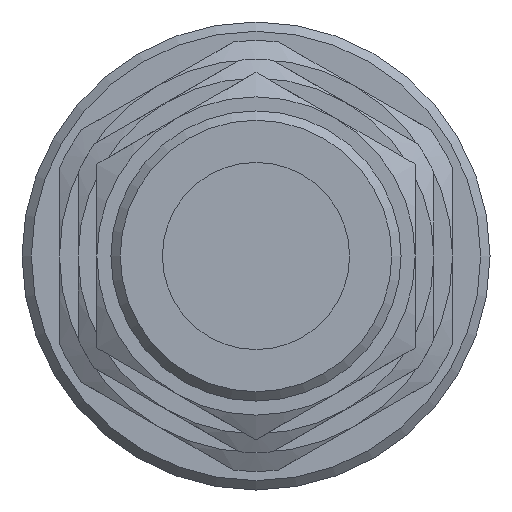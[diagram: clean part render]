
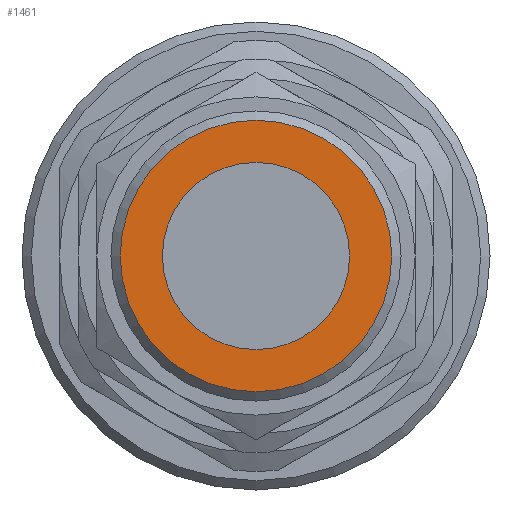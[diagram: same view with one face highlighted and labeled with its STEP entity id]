
A CAD part, left-side view. The second image highlights one B-rep face of the part: STEP entity #1461.
In plain terms, the highlighted planar face has unit normal (-1, 0, 0).
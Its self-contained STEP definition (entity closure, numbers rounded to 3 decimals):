
#236=PLANE($,#1572);
#270=FACE_BOUND($,#406,.T.);
#271=FACE_BOUND($,#407,.T.);
#406=EDGE_LOOP($,(#997));
#407=EDGE_LOOP($,(#998));
#531=CIRCLE($,#1564,5.);
#533=CIRCLE($,#1568,7.25);
#624=VERTEX_POINT($,#2209);
#626=VERTEX_POINT($,#2215);
#771=EDGE_CURVE($,#624,#624,#531,.T.);
#773=EDGE_CURVE($,#626,#626,#533,.T.);
#997=ORIENTED_EDGE($,*,*,#771,.T.);
#998=ORIENTED_EDGE($,*,*,#773,.F.);
#1461=ADVANCED_FACE($,(#270,#271),#236,.F.);
#1564=AXIS2_PLACEMENT_3D($,#2210,#1763,#1764);
#1568=AXIS2_PLACEMENT_3D($,#2216,#1771,#1772);
#1572=AXIS2_PLACEMENT_3D($,#2222,#1779,#1780);
#1763=DIRECTION('center_axis',(1.,0.,0.));
#1764=DIRECTION('ref_axis',(0.,-1.,0.));
#1771=DIRECTION('center_axis',(1.,0.,0.));
#1772=DIRECTION('ref_axis',(0.,0.,
-1.));
#1779=DIRECTION('center_axis',(1.,0.,0.));
#1780=DIRECTION('ref_axis',(0.,0.,-1.));
#2209=CARTESIAN_POINT('',(-23.5,-5.,0.));
#2210=CARTESIAN_POINT('Origin',(-23.5,0.,0.));
#2215=CARTESIAN_POINT('',(-23.5,0.,7.25));
#2216=CARTESIAN_POINT('Origin',(-23.5,0.,0.));
#2222=CARTESIAN_POINT('Origin',(-23.5,0.,0.));
